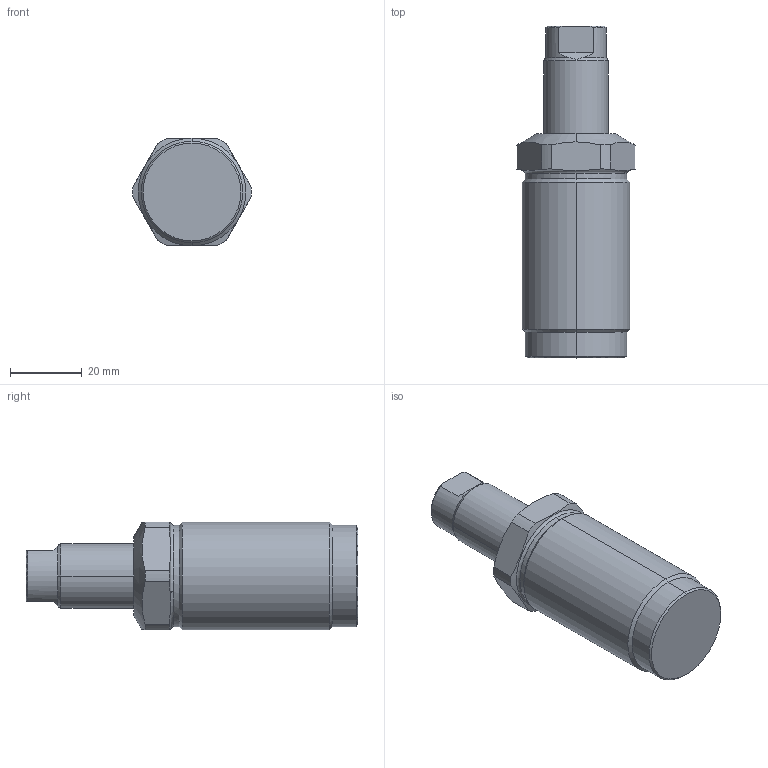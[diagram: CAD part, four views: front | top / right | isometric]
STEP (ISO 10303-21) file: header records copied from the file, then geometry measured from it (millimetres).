
FILE_DESCRIPTION((' '),'2;1');
FILE_NAME( 'TGM06-20.x_t.stp', '2024-08-27T13:43:51', (' '), ('--- Datakit www.datakit.com---'), ' Datakit CrossCadWare V2024.1 Dec 21 2023', 'Mastercam 2025', ' ');
FILE_SCHEMA(('AUTOMOTIVE_DESIGN { 1 0 10303 214 1 1 1 1 }'));
Length unit declared in the file: millimetre
Products named in the file (1): TGM06-20
Bounding box: 32.98 x 92.5 x 30 mm (x, y, z)
Volume: 44778 mm3; surface area: 10886.6 mm2
Topology: 2 solids, 2 shells, 58 faces, 140 edges, 87 vertices
Faces by surface type: cylinder 22, cone 18, plane 16, torus 2
Entity records: 1807 total; most frequent: CARTESIAN_POINT 412, DIRECTION 304, ORIENTED_EDGE 276, EDGE_CURVE 138, AXIS2_PLACEMENT_3D 127, VERTEX_POINT 87, CIRCLE 62, EDGE_LOOP 61
